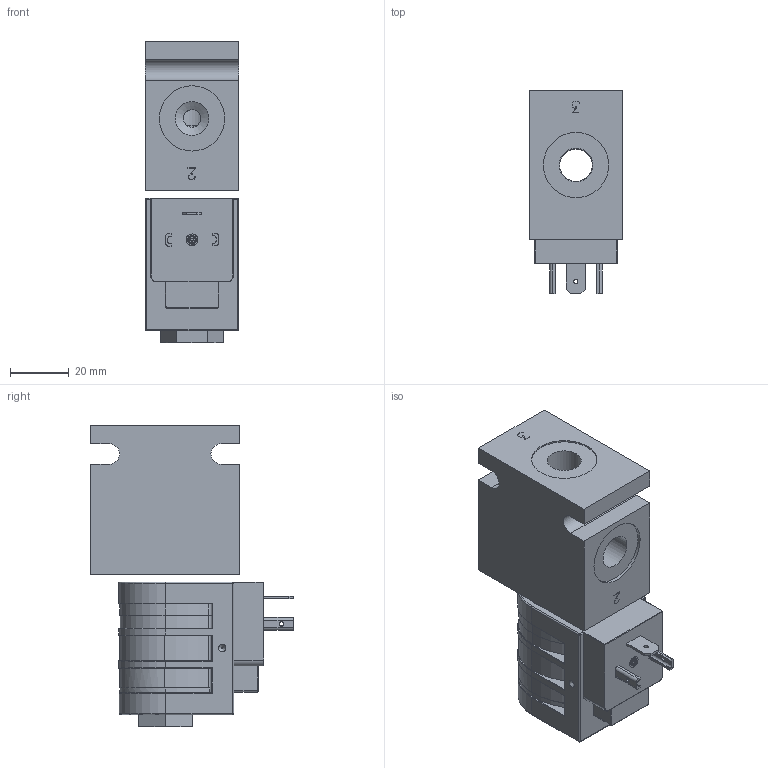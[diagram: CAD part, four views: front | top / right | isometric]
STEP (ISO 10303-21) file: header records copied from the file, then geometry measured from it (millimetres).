
FILE_DESCRIPTION(/* description */ ('Unknown'),/* implementation_level */ '2;1');
FILE_NAME(/* name */ 'UCS3T00',/* time_stamp */ '2017-04-26T09:42:45+01:00',/* author */ ('Unknown'),/* organization */ ('Unknown'),/* preprocessor_version */ 'ST-DEVELOPER v16.7',/* originating_system */ 'DEX',/* authorisation */ $);
FILE_SCHEMA (('AUTOMOTIVE_DESIGN {1 0 10303 214 3 1 1}'));
Length unit declared in the file: millimetre
Products named in the file (9): UCS3T00; UCS3T00-3D_Full; B-DMCA3; D-PHC - Copy; PT-EL-HC-TerminalConnectors; PHC_HirschThread; PHC_Disc; PHC_Body; Delta_1_2_nut1
Assembly tree (9 placements, depth 3):
  UCS3T00
    UCS3T00-3D_Full
    B-DMCA3
    D-PHC - Copy
      PT-EL-HC-TerminalConnectors
      PHC_HirschThread
      PHC_Disc  x2
      PHC_Body
    Delta_1_2_nut1
Bounding box: 31.77 x 69 x 102.7 mm (x, y, z)
Volume: 118310.9 mm3; surface area: 31833.6 mm2
Topology: 10 solids, 10 shells, 363 faces, 905 edges, 567 vertices
Faces by surface type: plane 171, cylinder 113, cone 61, torus 12, sphere 6
Full cylindrical faces by diameter (mm): 0.2 x3, 0.5 x2, 1 x1, 1.5 x3, 4 x2, 6 x2, 11.151 x1, 11.5 x6, 12.76 x1, 13 x1, 13.05 x2, 14.348 x2, 16.48 x1, 22.22 x2, 26.975 x1, 27.18 x4
Entity records: 11033 total; most frequent: CARTESIAN_POINT 1962, DIRECTION 1637, ORIENTED_EDGE 1580, EDGE_CURVE 790, AXIS2_PLACEMENT_3D 648, VERTEX_POINT 541, EDGE_LOOP 469, FACE_BOUND 469
